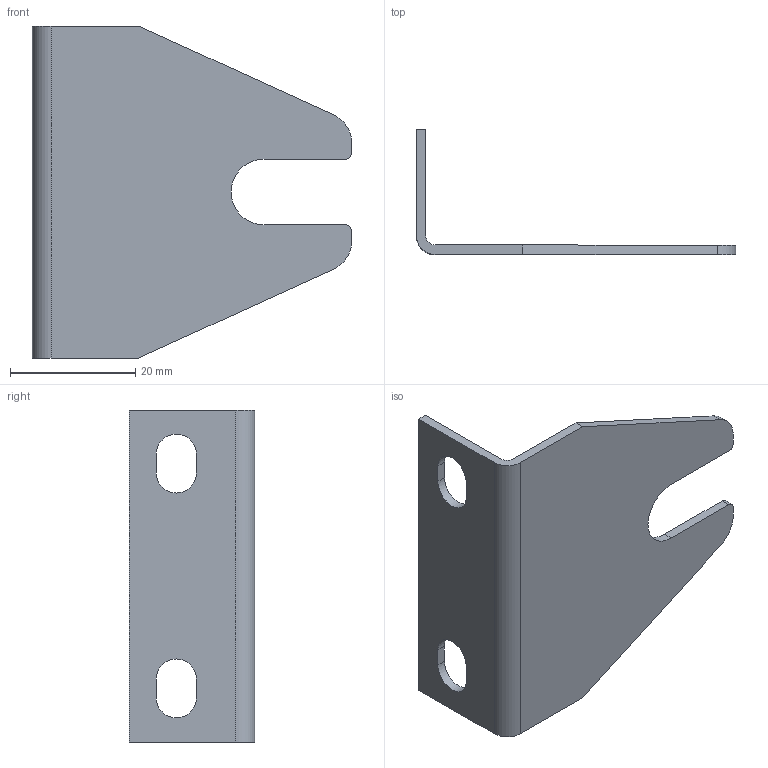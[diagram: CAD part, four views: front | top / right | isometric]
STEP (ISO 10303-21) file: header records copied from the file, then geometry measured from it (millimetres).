
FILE_DESCRIPTION((''),'2;1');
FILE_NAME('K:\ZEICHNG\webgrafik.intern\step\Air-Techniques\FDR.04-34.stp','2013-06-17T15:05:48',('RJanz'),(''),'Autodesk Inventor 2013','Autodesk Inventor 2013','');
FILE_SCHEMA(('CONFIG_CONTROL_DESIGN'));
Length unit declared in the file: millimetre
Products named in the file (1): 10007743
Bounding box: 51 x 20 x 53 mm (x, y, z)
Volume: 4212.4 mm3; surface area: 6070.6 mm2
Topology: 1 solids, 1 shells, 28 faces, 78 edges, 52 vertices
Faces by surface type: plane 17, cylinder 11
Entity records: 938 total; most frequent: CARTESIAN_POINT 159, DIRECTION 158, ORIENTED_EDGE 156, EDGE_CURVE 78, VECTOR 56, LINE 56, VERTEX_POINT 52, AXIS2_PLACEMENT_3D 51
